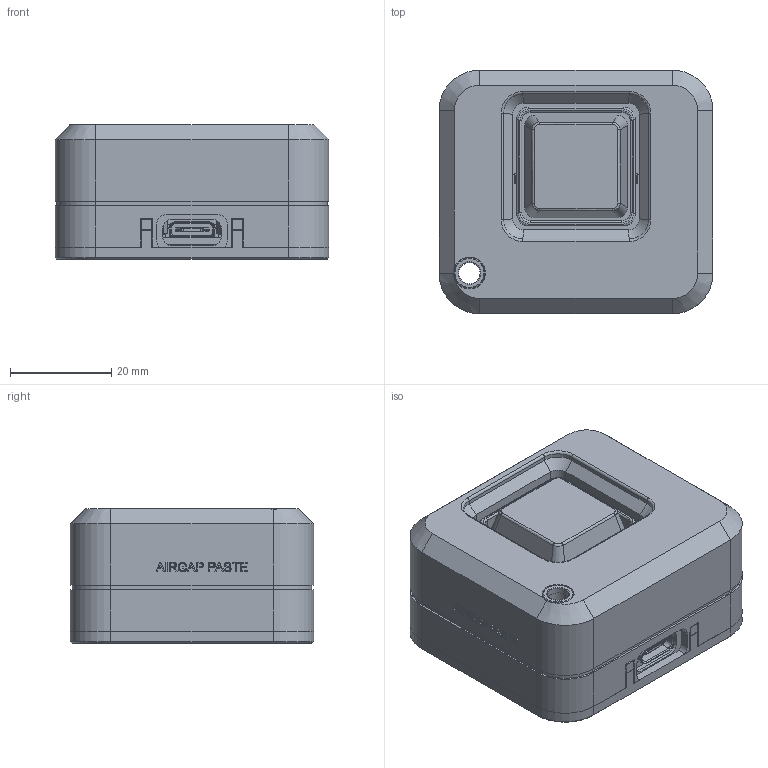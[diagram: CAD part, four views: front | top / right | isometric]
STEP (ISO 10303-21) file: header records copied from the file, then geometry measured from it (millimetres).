
FILE_DESCRIPTION(('Open CASCADE Model'),'2;1');
FILE_NAME('Open CASCADE Shape Model','2026-10-06T21:24:30',('Author'),( 'Open CASCADE'),'Open CASCADE STEP processor 7.9','Open CASCADE 7.9' ,'Unknown');
FILE_SCHEMA(('AUTOMOTIVE_DESIGN { 1 0 10303 214 1 1 1 1 }'));
Length unit declared in the file: millimetre
Products named in the file (13): AirGap_Paste_Pocket_Recess; 01_shell; 02_base; 03_keycap; 04_halo; 09_eye_bushing; 05_mx_plate; 07_xiao_wedge; 06_lightguide_left; 06_lightguide_right; XIAO_official_reference; Flat_FPC_antenna_envelope; MX_dimensional_envelope
Assembly tree (12 placements, depth 2):
  AirGap_Paste_Pocket_Recess
    01_shell
    02_base
    03_keycap
    04_halo
    09_eye_bushing
    05_mx_plate
    07_xiao_wedge
    06_lightguide_left
    06_lightguide_right
    XIAO_official_reference
    Flat_FPC_antenna_envelope
    MX_dimensional_envelope
Bounding box: 54 x 48 x 26.6 mm (x, y, z)
Volume: 29563.6 mm3; surface area: 34197.9 mm2
Topology: 49 solids, 54 shells, 1728 faces, 4465 edges, 2899 vertices
Faces by surface type: plane 1168, cylinder 304, bspline 105, extrusion 100, torus 26, cone 19, sphere 6
Full cylindrical faces by diameter (mm): 0.5 x3, 0.6 x2, 0.75 x14, 1.524 x8, 1.72 x1, 1.86 x1, 2 x2, 3.4 x6, 4.2 x3, 5.3 x1, 6 x1, 6.3 x1
Entity records: 113781 total; most frequent: CARTESIAN_POINT 26283, DIRECTION 15053, VECTOR 10290, LINE 10190, ORIENTED_EDGE 8914, PCURVE 8914, DEFINITIONAL_REPRESENTATION 8914, EDGE_CURVE 4457
